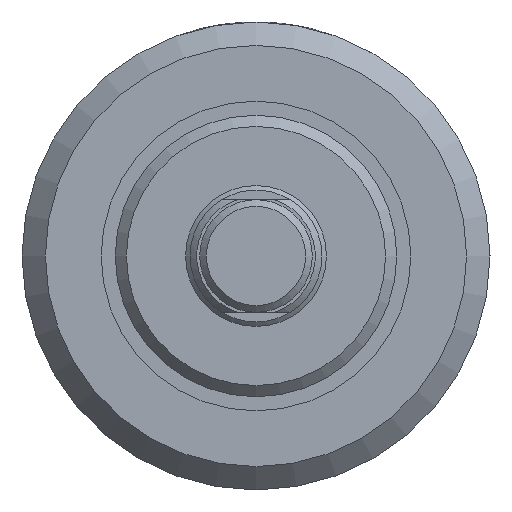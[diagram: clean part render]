
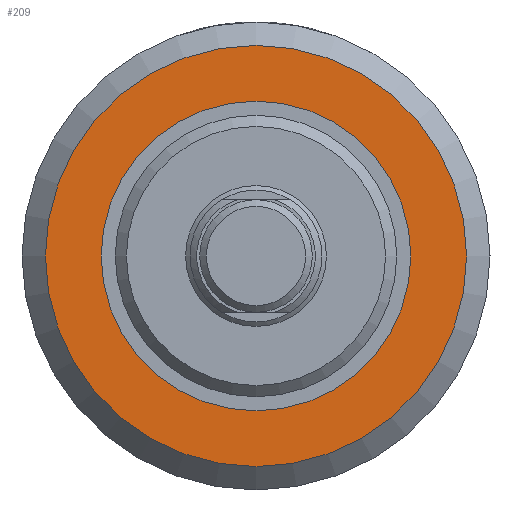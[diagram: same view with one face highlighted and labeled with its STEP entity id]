
A CAD part, left-side view. The second image highlights one B-rep face of the part: STEP entity #209.
In plain terms, the highlighted planar face has unit normal (-1, 0, 0).
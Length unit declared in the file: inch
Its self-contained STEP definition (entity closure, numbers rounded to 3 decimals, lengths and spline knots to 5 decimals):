
#209 = ADVANCED_FACE( '', ( #442, #443 ), #444, .F. );
#442 = FACE_OUTER_BOUND( '', #696, .T. );
#443 = FACE_BOUND( '', #697, .T. );
#444 = PLANE( '', #698 );
#696 = EDGE_LOOP( '', ( #1063 ) );
#697 = EDGE_LOOP( '', ( #1064 ) );
#698 = AXIS2_PLACEMENT_3D( '', #1065, #1066, #1067 );
#1063 = ORIENTED_EDGE( '', *, *, #1360, .F. );
#1064 = ORIENTED_EDGE( '', *, *, #1335, .T. );
#1065 = CARTESIAN_POINT( '', ( 0.813, 0.6875, 0. ) );
#1066 = DIRECTION( '', ( 1., 0., 0. ) );
#1067 = DIRECTION( '', ( 0., 0., -1. ) );
#1335 = EDGE_CURVE( '', #1551, #1551, #1552, .T. );
#1360 = EDGE_CURVE( '', #1586, #1586, #1587, .T. );
#1551 = VERTEX_POINT( '', #1919 );
#1552 = CIRCLE( '', #1920, 0.6875 );
#1586 = VERTEX_POINT( '', #2045 );
#1587 = CIRCLE( '', #2046, 0.9351 );
#1919 = CARTESIAN_POINT( '', ( 0.813, 0., -0.6875 ) );
#1920 = AXIS2_PLACEMENT_3D( '', #2245, #2246, #2247 );
#2045 = CARTESIAN_POINT( '', ( 0.813, 0., -0.9351 ) );
#2046 = AXIS2_PLACEMENT_3D( '', #2275, #2276, #2277 );
#2245 = CARTESIAN_POINT( '', ( 0.813, 0., 0. ) );
#2246 = DIRECTION( '', ( 1., 0., 0. ) );
#2247 = DIRECTION( '', ( 0., 0., -1. ) );
#2275 = CARTESIAN_POINT( '', ( 0.813, 0., 0. ) );
#2276 = DIRECTION( '', ( 1., 0., 0. ) );
#2277 = DIRECTION( '', ( 0., 0., -1. ) );
